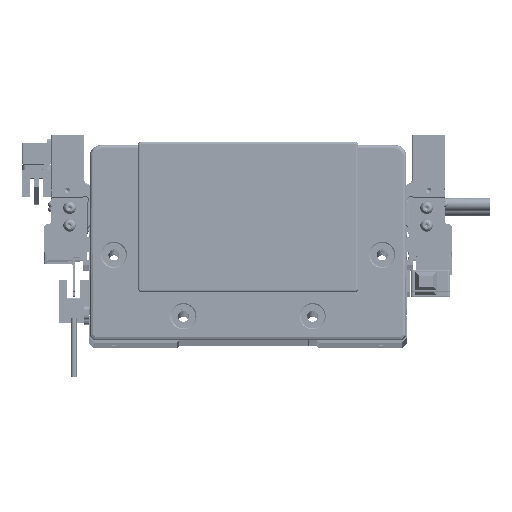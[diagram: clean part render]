
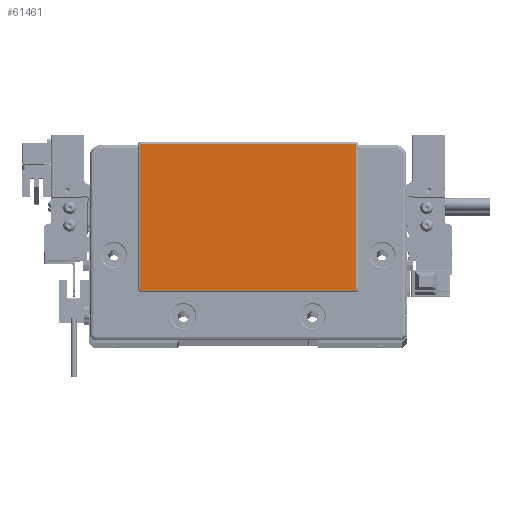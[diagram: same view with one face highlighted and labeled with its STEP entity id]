
A CAD part, top view. The second image highlights one B-rep face of the part: STEP entity #61461.
In plain terms, the highlighted planar face has unit normal (0, 0, 1) as drawn and (0, 0, -1) by its records, which use the part's own axes.
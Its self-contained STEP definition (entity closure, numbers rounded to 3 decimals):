
#118 = ORIENTED_EDGE ( 'NONE', *, *, #18574, .T. ) ;
#1325 = ORIENTED_EDGE ( 'NONE', *, *, #94461, .T. ) ;
#3437 = EDGE_CURVE ( 'NONE', #24788, #5914, #78137, .T. ) ;
#4652 = CARTESIAN_POINT ( 'NONE',  ( -48.75, 44.3, -2. ) ) ;
#4902 = VERTEX_POINT ( 'NONE', #78413 ) ;
#5283 = CARTESIAN_POINT ( 'NONE',  ( 48.75, -22.3, -2. ) ) ;
#5914 = VERTEX_POINT ( 'NONE', #5283 ) ;
#7620 = DIRECTION ( 'NONE',  ( -1., 0., 0. ) ) ;
#8878 = DIRECTION ( 'NONE',  ( 1., 0., 0. ) ) ;
#10708 = VECTOR ( 'NONE', #43375, 1000. ) ;
#12767 = ORIENTED_EDGE ( 'NONE', *, *, #31781, .T. ) ;
#14221 = DIRECTION ( 'NONE',  ( -1., 0., 0. ) ) ;
#16521 = CARTESIAN_POINT ( 'NONE',  ( 48.75, -21.8, -2. ) ) ;
#18574 = EDGE_CURVE ( 'NONE', #4902, #43558, #22290, .T. ) ;
#18887 = CARTESIAN_POINT ( 'NONE',  ( 48.75, 44.3, -2. ) ) ;
#19193 = CIRCLE ( 'NONE', #105906, 0.5 ) ;
#22140 = DIRECTION ( 'NONE',  ( 0., 0., -1. ) ) ;
#22290 = CIRCLE ( 'NONE', #92019, 0.5 ) ;
#22413 = AXIS2_PLACEMENT_3D ( 'NONE', #39843, #22140, #112932 ) ;
#23087 = CARTESIAN_POINT ( 'NONE',  ( -48.75, -22.3, -2. ) ) ;
#23674 = LINE ( 'NONE', #23087, #95590 ) ;
#24460 = EDGE_CURVE ( 'NONE', #35861, #113025, #38091, .T. ) ;
#24788 = VERTEX_POINT ( 'NONE', #29436 ) ;
#25401 = VECTOR ( 'NONE', #52622, 1000. ) ;
#26606 = CARTESIAN_POINT ( 'NONE',  ( -49.25, 43.8, -2. ) ) ;
#27180 = LINE ( 'NONE', #18887, #97826 ) ;
#29317 = EDGE_LOOP ( 'NONE', ( #48654, #82398, #81866, #118, #1325, #12767, #98247, #83735 ) ) ;
#29436 = CARTESIAN_POINT ( 'NONE',  ( 49.25, -21.8, -2. ) ) ;
#31781 = EDGE_CURVE ( 'NONE', #64321, #103841, #19193, .T. ) ;
#32695 = CARTESIAN_POINT ( 'NONE',  ( -49.25, -21.8, -2. ) ) ;
#35861 = VERTEX_POINT ( 'NONE', #116112 ) ;
#38091 = CIRCLE ( 'NONE', #53178, 0.5 ) ;
#39843 = CARTESIAN_POINT ( 'NONE',  ( 0., 0., -2. ) ) ;
#43375 = DIRECTION ( 'NONE',  ( 0., 1., 0. ) ) ;
#43558 = VERTEX_POINT ( 'NONE', #32695 ) ;
#47378 = DIRECTION ( 'NONE',  ( 0., 0., -1. ) ) ;
#48654 = ORIENTED_EDGE ( 'NONE', *, *, #82113, .T. ) ;
#52622 = DIRECTION ( 'NONE',  ( 0., -1., 0. ) ) ;
#53178 = AXIS2_PLACEMENT_3D ( 'NONE', #60161, #79580, #7620 ) ;
#56231 = CARTESIAN_POINT ( 'NONE',  ( -48.75, 43.8, -2. ) ) ;
#56283 = EDGE_CURVE ( 'NONE', #103841, #35861, #27180, .T. ) ;
#60161 = CARTESIAN_POINT ( 'NONE',  ( 48.75, 43.8, -2. ) ) ;
#61461 = ADVANCED_FACE ( 'NONE', ( #67544 ), #93521, .T. ) ;
#62823 = CARTESIAN_POINT ( 'NONE',  ( -49.25, 43.8, -2. ) ) ;
#64321 = VERTEX_POINT ( 'NONE', #26606 ) ;
#67544 = FACE_OUTER_BOUND ( 'NONE', #29317, .T. ) ;
#69025 = DIRECTION ( 'NONE',  ( -1., 0., 0. ) ) ;
#70663 = AXIS2_PLACEMENT_3D ( 'NONE', #16521, #96140, #69025 ) ;
#77394 = CARTESIAN_POINT ( 'NONE',  ( 49.25, -21.8, -2. ) ) ;
#78137 = CIRCLE ( 'NONE', #70663, 0.5 ) ;
#78413 = CARTESIAN_POINT ( 'NONE',  ( -48.75, -22.3, -2. ) ) ;
#79134 = LINE ( 'NONE', #77394, #25401 ) ;
#79580 = DIRECTION ( 'NONE',  ( 0., 0., -1. ) ) ;
#81866 = ORIENTED_EDGE ( 'NONE', *, *, #107122, .T. ) ;
#82113 = EDGE_CURVE ( 'NONE', #113025, #24788, #79134, .T. ) ;
#82398 = ORIENTED_EDGE ( 'NONE', *, *, #3437, .T. ) ;
#83330 = DIRECTION ( 'NONE',  ( -1., 0., 0. ) ) ;
#83735 = ORIENTED_EDGE ( 'NONE', *, *, #24460, .T. ) ;
#92019 = AXIS2_PLACEMENT_3D ( 'NONE', #101824, #101247, #92999 ) ;
#92999 = DIRECTION ( 'NONE',  ( -1., 0., 0. ) ) ;
#93521 = PLANE ( 'NONE',  #22413 ) ;
#94461 = EDGE_CURVE ( 'NONE', #43558, #64321, #115270, .T. ) ;
#95590 = VECTOR ( 'NONE', #14221, 1000. ) ;
#96140 = DIRECTION ( 'NONE',  ( 0., 0., -1. ) ) ;
#97826 = VECTOR ( 'NONE', #8878, 1000. ) ;
#98247 = ORIENTED_EDGE ( 'NONE', *, *, #56283, .T. ) ;
#101247 = DIRECTION ( 'NONE',  ( 0., 0., -1. ) ) ;
#101824 = CARTESIAN_POINT ( 'NONE',  ( -48.75, -21.8, -2. ) ) ;
#102235 = CARTESIAN_POINT ( 'NONE',  ( 49.25, 43.8, -2. ) ) ;
#103841 = VERTEX_POINT ( 'NONE', #4652 ) ;
#105906 = AXIS2_PLACEMENT_3D ( 'NONE', #56231, #47378, #83330 ) ;
#107122 = EDGE_CURVE ( 'NONE', #5914, #4902, #23674, .T. ) ;
#112932 = DIRECTION ( 'NONE',  ( -1., 0., 0. ) ) ;
#113025 = VERTEX_POINT ( 'NONE', #102235 ) ;
#115270 = LINE ( 'NONE', #62823, #10708 ) ;
#116112 = CARTESIAN_POINT ( 'NONE',  ( 48.75, 44.3, -2. ) ) ;
